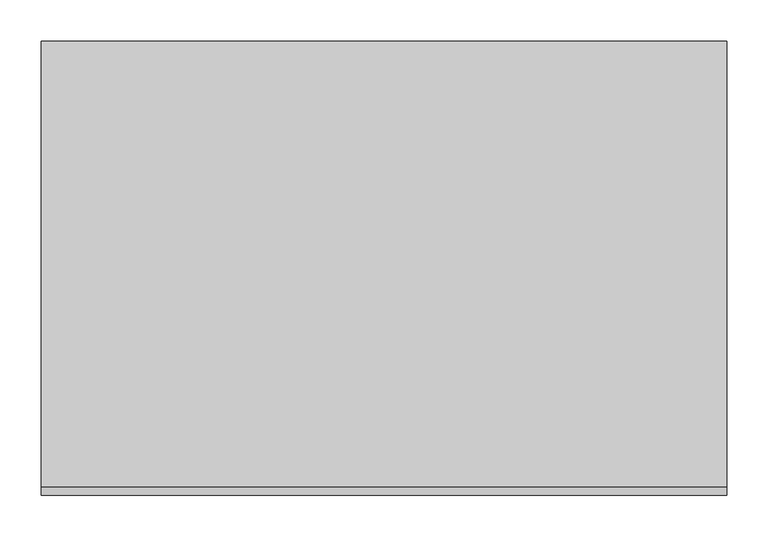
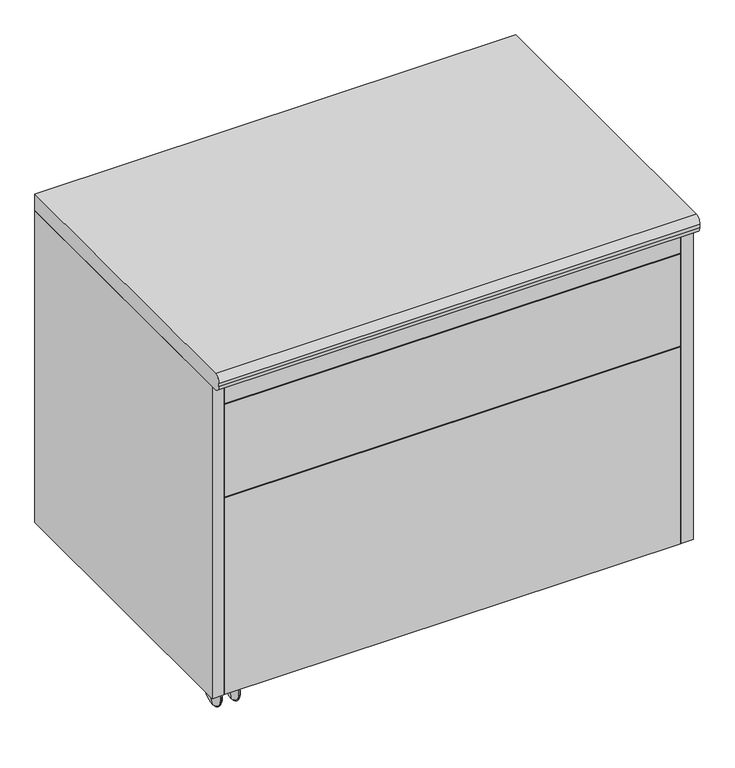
"""IFC4 building model written with IfcOpenShell, lengths in millimetres: furniture geometry, 邊櫃_002 : DB 3020N 01 W465*D550*H650."""

from ifc_helpers import new_model, si_unit, point, frame, frame_2d, origin, place, context, project, spatial, polyline, circle_curve, ellipse_curve, trimmed, segment, composite_curve, outline, extrude, source, transform, mapped, element, save
from ifc_brep_helpers import revolved_surface, advanced_brep


def furniture_dfe98725(model_context):
    return source(origin(), model_context, "Body", "SolidModel", [
        advanced_brep(
        [(-386.9403292, -207.3156332, 0.7780833), (-386.9403292, -207.3156332, 49.2219167), (-385.6835252, -207.3156332, 50.0), (-385.6835252, -207.3156332, 0.0), (-390.4120984, -207.3156332, 25.0), (-384.4267212, -207.3156332, 0.7780833), (-384.4267212, -207.3156332, 49.2219167), (-382.3516764, -207.3156332, 25.0)],
        [
            (0, 1, circle_curve(frame((-386.9403292, -207.3156332, 25.0), z_axis=(1.0, 0.0, 0.0), x_axis=(0.0, 0.0, 1.0)), 24.2219167)),
            (1, 2, circle_curve(frame((-385.4086773, -207.3156332, 48.1519781), z_axis=(0.0, 1.0, 0.0), x_axis=(1.0, 0.0, 0.0)), 1.8683485)),
            (2, 3, circle_curve(frame((-385.6835252, -207.3156332, 25.0), z_axis=(-1.0, 0.0, 0.0), x_axis=(0.0, 0.0, 1.0)), 25.0)),
            (3, 0, circle_curve(frame((-385.4086773, -207.3156332, 1.8480219), z_axis=(0.0, 1.0, 0.0), x_axis=(1.0, 0.0, 0.0)), 1.8683485)),
            (1, 0, circle_curve(frame((-386.9403292, -207.3156332, 25.0), z_axis=(1.0, 0.0, 0.0), x_axis=(0.0, 0.0, 1.0)), 24.2219167)),
            (3, 2, circle_curve(frame((-385.6835252, -207.3156332, 25.0), z_axis=(-1.0, 0.0, 0.0), x_axis=(0.0, 0.0, 1.0)), 25.0)),
            (4, 1, circle_curve(frame((-304.1802104, -207.3156332, 25.0), z_axis=(0.0, 1.0, 0.0), x_axis=(1.0, 0.0, 0.0)), 86.231888)),
            (0, 4, circle_curve(frame((-304.1802104, -207.3156332, 25.0), z_axis=(0.0, 1.0, 0.0), x_axis=(1.0, 0.0, 0.0)), 86.231888)),
            (5, 6, circle_curve(frame((-384.4267212, -207.3156332, 25.0), z_axis=(1.0, 0.0, 0.0), x_axis=(0.0, 0.0, 1.0)), 24.2219167)),
            (6, 7, circle_curve(frame((-524.7599405, -207.3156332, 25.0), z_axis=(0.0, 1.0, 0.0), x_axis=(1.0, 0.0, 0.0)), 142.4082641)),
            (7, 5, circle_curve(frame((-524.7599405, -207.3156332, 25.0), z_axis=(0.0, 1.0, 0.0), x_axis=(1.0, 0.0, 0.0)), 142.4082641)),
            (6, 5, circle_curve(frame((-384.4267212, -207.3156332, 25.0), z_axis=(1.0, 0.0, 0.0), x_axis=(0.0, 0.0, 1.0)), 24.2219167)),
            (2, 6, circle_curve(frame((-385.9583731, -207.3156332, 48.1519781), z_axis=(0.0, 1.0, 0.0), x_axis=(1.0, 0.0, 0.0)), 1.8683485)),
            (5, 3, circle_curve(frame((-385.9583731, -207.3156332, 1.8480219), z_axis=(0.0, 1.0, 0.0), x_axis=(1.0, 0.0, 0.0)), 1.8683485)),
        ],
        [
            revolved_surface(trimmed(ellipse_curve(frame((-385.4086773, -207.3156332, 48.1519781), z_axis=(0.0, -1.0, 0.0), x_axis=(1.0, 0.0, 0.0)), 1.8683485, 1.8683485), [point((-385.6835252, -207.3156332, 50.0))], [point((-386.9403292, -207.3156332, 49.2219167))], True, "CARTESIAN"), (-402.328562, -207.3156332, 25.0), (-1.0, 0.0, 0.0)),
            revolved_surface(trimmed(ellipse_curve(frame((-304.1802104, -207.3156332, 25.0), z_axis=(0.0, -1.0, 0.0), x_axis=(1.0, 0.0, 0.0)), 86.231888, 86.231888), [point((-386.9403292, -207.3156332, 49.2219167))], [point((-390.4120984, -207.3156332, 25.0))], True, "CARTESIAN"), (-402.328562, -207.3156332, 25.0), (-1.0, 0.0, 0.0)),
            revolved_surface(trimmed(ellipse_curve(frame((-524.7599405, -207.3156332, 25.0), z_axis=(0.0, -1.0, 0.0), x_axis=(1.0, 0.0, 0.0)), 142.4082641, 142.4082641), [point((-382.3516764, -207.3156332, 25.0))], [point((-384.4267212, -207.3156332, 49.2219167))], True, "CARTESIAN"), (-402.328562, -207.3156332, 25.0), (-1.0, 0.0, 0.0)),
            revolved_surface(trimmed(ellipse_curve(frame((-385.9583731, -207.3156332, 48.1519781), z_axis=(0.0, -1.0, 0.0), x_axis=(1.0, 0.0, 0.0)), 1.8683485, 1.8683485), [point((-384.4267212, -207.3156332, 49.2219167))], [point((-385.6835252, -207.3156332, 50.0))], True, "CARTESIAN"), (-402.328562, -207.3156332, 25.0), (-1.0, 0.0, 0.0)),
        ],
        [
            (0, [[1, 2, 3, 4]]),
            (0, [[5, -4, 6, -2]]),
            (1, [[7, -1, 8]]),
            (1, [[-8, -5, -7]]),
            (2, [[9, 10, 11]]),
            (2, [[12, -11, -10]]),
            (3, [[-3, 13, -9, 14]]),
            (3, [[-6, -14, -12, -13]]),
        ],
    ),
        advanced_brep(
        [(-355.2724283, -207.3156332, 0.7780833), (-355.2724283, -207.3156332, 49.2219167), (-354.0156243, -207.3156332, 50.0), (-354.0156243, -207.3156332, 0.0), (-357.3474732, -207.3156332, 25.0), (-352.7588203, -207.3156332, 0.7780833), (-352.7588203, -207.3156332, 49.2219167), (-349.2870511, -207.3156332, 25.0)],
        [
            (0, 1, circle_curve(frame((-355.2724283, -207.3156332, 25.0), z_axis=(1.0, 0.0, 0.0), x_axis=(0.0, 0.0, 1.0)), 24.2219167)),
            (1, 2, circle_curve(frame((-353.7407764, -207.3156332, 48.1519781), z_axis=(0.0, 1.0, 0.0), x_axis=(1.0, 0.0, 0.0)), 1.8683485)),
            (2, 3, circle_curve(frame((-354.0156243, -207.3156332, 25.0), z_axis=(-1.0, 0.0, 0.0), x_axis=(0.0, 0.0, 1.0)), 25.0)),
            (3, 0, circle_curve(frame((-353.7407764, -207.3156332, 1.8480219), z_axis=(0.0, 1.0, 0.0), x_axis=(1.0, 0.0, 0.0)), 1.8683485)),
            (1, 0, circle_curve(frame((-355.2724283, -207.3156332, 25.0), z_axis=(1.0, 0.0, 0.0), x_axis=(0.0, 0.0, 1.0)), 24.2219167)),
            (3, 2, circle_curve(frame((-354.0156243, -207.3156332, 25.0), z_axis=(-1.0, 0.0, 0.0), x_axis=(0.0, 0.0, 1.0)), 25.0)),
            (4, 1, circle_curve(frame((-214.939209, -207.3156332, 25.0), z_axis=(0.0, 1.0, 0.0), x_axis=(1.0, 0.0, 0.0)), 142.4082641)),
            (0, 4, circle_curve(frame((-214.939209, -207.3156332, 25.0), z_axis=(0.0, 1.0, 0.0), x_axis=(1.0, 0.0, 0.0)), 142.4082641)),
            (5, 6, circle_curve(frame((-352.7588203, -207.3156332, 25.0), z_axis=(1.0, 0.0, 0.0), x_axis=(0.0, 0.0, 1.0)), 24.2219167)),
            (6, 7, circle_curve(frame((-435.5189391, -207.3156332, 25.0), z_axis=(0.0, 1.0, 0.0), x_axis=(1.0, 0.0, 0.0)), 86.231888)),
            (7, 5, circle_curve(frame((-435.5189391, -207.3156332, 25.0), z_axis=(0.0, 1.0, 0.0), x_axis=(1.0, 0.0, 0.0)), 86.231888)),
            (6, 5, circle_curve(frame((-352.7588203, -207.3156332, 25.0), z_axis=(1.0, 0.0, 0.0), x_axis=(0.0, 0.0, 1.0)), 24.2219167)),
            (2, 6, circle_curve(frame((-354.2904722, -207.3156332, 48.1519781), z_axis=(0.0, 1.0, 0.0), x_axis=(1.0, 0.0, 0.0)), 1.8683485)),
            (5, 3, circle_curve(frame((-354.2904722, -207.3156332, 1.8480219), z_axis=(0.0, 1.0, 0.0), x_axis=(1.0, 0.0, 0.0)), 1.8683485)),
        ],
        [
            revolved_surface(trimmed(ellipse_curve(frame((-353.7407764, -207.3156332, 48.1519781), z_axis=(0.0, -1.0, 0.0), x_axis=(1.0, 0.0, 0.0)), 1.8683485, 1.8683485), [point((-354.0156243, -207.3156332, 50.0))], [point((-355.2724283, -207.3156332, 49.2219167))], True, "CARTESIAN"), (-402.328562, -207.3156332, 25.0), (-1.0, 0.0, 0.0)),
            revolved_surface(trimmed(ellipse_curve(frame((-214.939209, -207.3156332, 25.0), z_axis=(0.0, -1.0, 0.0), x_axis=(1.0, 0.0, 0.0)), 142.4082641, 142.4082641), [point((-355.2724283, -207.3156332, 49.2219167))], [point((-357.3474732, -207.3156332, 25.0))], True, "CARTESIAN"), (-402.328562, -207.3156332, 25.0), (-1.0, 0.0, 0.0)),
            revolved_surface(trimmed(ellipse_curve(frame((-435.5189391, -207.3156332, 25.0), z_axis=(0.0, -1.0, 0.0), x_axis=(1.0, 0.0, 0.0)), 86.231888, 86.231888), [point((-349.2870511, -207.3156332, 25.0))], [point((-352.7588203, -207.3156332, 49.2219167))], True, "CARTESIAN"), (-402.328562, -207.3156332, 25.0), (-1.0, 0.0, 0.0)),
            revolved_surface(trimmed(ellipse_curve(frame((-354.2904722, -207.3156332, 48.1519781), z_axis=(0.0, -1.0, 0.0), x_axis=(1.0, 0.0, 0.0)), 1.8683485, 1.8683485), [point((-352.7588203, -207.3156332, 49.2219167))], [point((-354.0156243, -207.3156332, 50.0))], True, "CARTESIAN"), (-402.328562, -207.3156332, 25.0), (-1.0, 0.0, 0.0)),
        ],
        [
            (0, [[1, 2, 3, 4]]),
            (0, [[5, -4, 6, -2]]),
            (1, [[7, -1, 8]]),
            (1, [[-8, -5, -7]]),
            (2, [[9, 10, 11]]),
            (2, [[12, -11, -10]]),
            (3, [[-3, 13, -9, 14]]),
            (3, [[-6, -14, -12, -13]]),
        ],
    ),
        extrude(outline(polyline([(393.0, -255.0), (-393.0, -255.0), (-393.0, -237.0), (393.0, -237.0), (393.0, -255.0)])), frame((0.0, 0.0, 581.0), z_axis=(0.0, 0.0, 1.0), x_axis=(1.0, 0.0, 0.0)), (0.0, 0.0, 1.0), 39.0),
        extrude(outline(polyline([(393.0, -255.0), (-393.0, -255.0), (-393.0, -237.0), (393.0, -237.0), (393.0, -255.0)])), frame((0.0, 0.0, 50.0), z_axis=(0.0, 0.0, 1.0), x_axis=(1.0, 0.0, 0.0)), (0.0, 0.0, 1.0), 359.0),
        extrude(outline(polyline([(393.0, -255.0), (-393.0, -255.0), (-393.0, -237.0), (393.0, -237.0), (393.0, -255.0)])), frame((0.0, 0.0, 411.0), z_axis=(0.0, 0.0, 1.0), x_axis=(1.0, 0.0, 0.0)), (0.0, 0.0, 1.0), 168.0),
        extrude(outline(composite_curve([segment(polyline([(-265.0, 650.0), (275.0, 650.0), (275.0, 620.0), (-265.0, 620.0)]), True, "CONTINUOUS"), segment(trimmed(circle_curve(frame_2d((-263.0000941, 631.8321755)), 12.0), [point((-265.0, 620.0))], [point((-275.0, 631.8796856))], False, "CARTESIAN"), True, "CONTINUOUS"), segment(polyline([(-275.0, 631.8796856), (-275.0, 637.8796856)]), True, "CONTINUOUS"), segment(trimmed(circle_curve(frame_2d((-263.0034463, 638.1672584)), 12.0), [point((-275.0, 637.8796856))], [point((-265.0, 650.0))], False, "CARTESIAN"), True, "CONTINUOUS")], self_intersect=False)), frame((-415.0, 0.0, 0.0), z_axis=(1.0, 0.0, 0.0), x_axis=(0.0, 1.0, 0.0)), (0.0, 0.0, 1.0), 830.0),
        extrude(outline(polyline([(395.0, 275.0), (395.0, -237.0), (-395.0, -237.0), (-395.0, 275.0), (395.0, 275.0)])), frame((0.0, 0.0, 50.0), z_axis=(0.0, 0.0, 1.0), x_axis=(1.0, 0.0, 0.0)), (0.0, 0.0, 1.0), 20.0),
        extrude(outline(polyline([(395.0, 265.0), (395.0, 258.0), (-395.0, 258.0), (-395.0, 265.0), (395.0, 265.0)])), frame((0.0, 0.0, 70.0), z_axis=(0.0, 0.0, 1.0), x_axis=(1.0, 0.0, 0.0)), (0.0, 0.0, 1.0), 550.0),
        extrude(outline(polyline([(395.0, 275.0), (415.0, 275.0), (415.0, -255.0), (395.0, -255.0), (395.0, 275.0)])), frame((0.0, 0.0, 50.0), z_axis=(0.0, 0.0, 1.0), x_axis=(1.0, 0.0, 0.0)), (0.0, 0.0, 1.0), 570.0),
        extrude(outline(polyline([(-395.0, 275.0), (-395.0, -255.0), (-415.0, -255.0), (-415.0, 275.0), (-395.0, 275.0)])), frame((0.0, 0.0, 50.0), z_axis=(0.0, 0.0, 1.0), x_axis=(1.0, 0.0, 0.0)), (0.0, 0.0, 1.0), 570.0),
    ])


if __name__ == "__main__":
    model = new_model("IFC4")
    model_context = context("Model", 3, world=origin())
    ifc_project = project(units=[si_unit("LENGTHUNIT", "METRE", prefix="MILLI")], contexts=[model_context])
    site = spatial("IfcSite", under=ifc_project)
    building = spatial("IfcBuilding", under=site)
    placement = place(None, origin())
    furniture_shape = furniture_dfe98725(model_context)
    element("IfcFurniture", 1, ObjectType="邊櫃_002 : DB 3020N 01 W465*D550*H650", at=placement, inside=building, context=model_context, shape_type="MappedRepresentation", body=[
        mapped(furniture_shape, transform((0.0, 0.0, 0.0), x_axis=(1.0, 0.0, 0.0), y_axis=(0.0, 1.0, 0.0), z_axis=(0.0, 0.0, 1.0))),
    ])
    save(model, "model.ifc")
